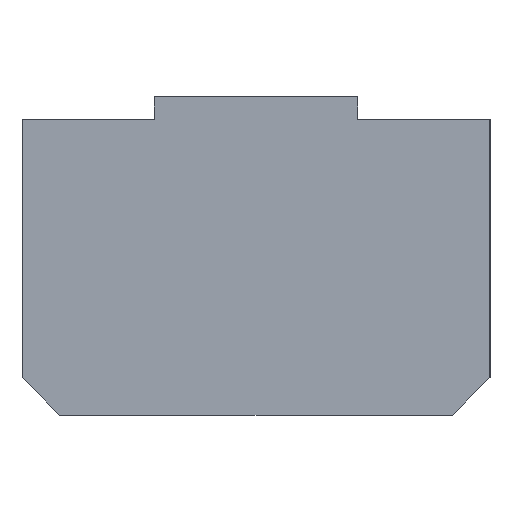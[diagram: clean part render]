
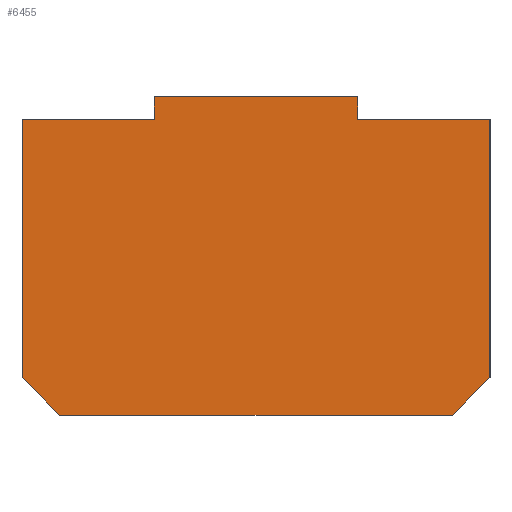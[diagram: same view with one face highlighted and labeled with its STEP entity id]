
A CAD part, left-side view. The second image highlights one B-rep face of the part: STEP entity #6455.
In plain terms, the highlighted planar face has unit normal (-1, 0, 0).
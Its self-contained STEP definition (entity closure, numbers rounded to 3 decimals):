
#2508=CARTESIAN_POINT('',(-22.5,20.75,-16.85));
#2509=VERTEX_POINT('',#2508);
#2516=CARTESIAN_POINT('',(-22.5,24.75,-12.85));
#2517=VERTEX_POINT('',#2516);
#2518=CARTESIAN_POINT('',(-22.5,20.75,-16.85));
#2519=DIRECTION('',(0.0,0.707,0.707));
#2520=VECTOR('',#2519,5.657);
#2521=LINE('',#2518,#2520);
#2522=EDGE_CURVE('',#2509,#2517,#2521,.T.);
#3152=CARTESIAN_POINT('',(-22.5,-20.75,-16.85));
#3153=VERTEX_POINT('',#3152);
#3160=CARTESIAN_POINT('',(-22.5,-20.75,-16.85));
#3161=DIRECTION('',(0.0,1.0,0.0));
#3162=VECTOR('',#3161,41.5);
#3163=LINE('',#3160,#3162);
#3164=EDGE_CURVE('',#3153,#2509,#3163,.T.);
#5314=CARTESIAN_POINT('',(-22.5,-24.75,-12.85));
#5315=VERTEX_POINT('',#5314);
#5322=CARTESIAN_POINT('',(-22.5,-24.75,-12.85));
#5323=DIRECTION('',(0.0,0.707,-0.707));
#5324=VECTOR('',#5323,5.657);
#5325=LINE('',#5322,#5324);
#5326=EDGE_CURVE('',#5315,#3153,#5325,.T.);
#6009=CARTESIAN_POINT('',(-22.5,-10.75,14.45));
#6010=VERTEX_POINT('',#6009);
#6017=CARTESIAN_POINT('',(-22.5,-24.75,14.45));
#6018=VERTEX_POINT('',#6017);
#6019=CARTESIAN_POINT('',(-22.5,-10.75,14.45));
#6020=DIRECTION('',(0.0,-1.0,0.0));
#6021=VECTOR('',#6020,14.0);
#6022=LINE('',#6019,#6021);
#6023=EDGE_CURVE('',#6010,#6018,#6022,.T.);
#6125=CARTESIAN_POINT('',(-22.5,24.75,14.45));
#6126=VERTEX_POINT('',#6125);
#6127=CARTESIAN_POINT('',(-22.5,24.75,-12.85));
#6128=DIRECTION('',(0.0,0.0,1.0));
#6129=VECTOR('',#6128,27.3);
#6130=LINE('',#6127,#6129);
#6131=EDGE_CURVE('',#2517,#6126,#6130,.T.);
#6291=CARTESIAN_POINT('',(-22.5,10.75,14.45));
#6292=VERTEX_POINT('',#6291);
#6293=CARTESIAN_POINT('',(-22.5,24.75,14.45));
#6294=DIRECTION('',(0.0,-1.0,0.0));
#6295=VECTOR('',#6294,14.);
#6296=LINE('',#6293,#6295);
#6297=EDGE_CURVE('',#6126,#6292,#6296,.T.);
#6344=CARTESIAN_POINT('',(-22.5,-24.75,14.45));
#6345=DIRECTION('',(0.0,0.0,-1.0));
#6346=VECTOR('',#6345,27.3);
#6347=LINE('',#6344,#6346);
#6348=EDGE_CURVE('',#6018,#5315,#6347,.T.);
#6367=CARTESIAN_POINT('',(-22.5,-10.75,16.85));
#6368=VERTEX_POINT('',#6367);
#6375=CARTESIAN_POINT('',(-22.5,-10.75,16.85));
#6376=DIRECTION('',(0.0,0.0,-1.0));
#6377=VECTOR('',#6376,2.4);
#6378=LINE('',#6375,#6377);
#6379=EDGE_CURVE('',#6368,#6010,#6378,.T.);
#6398=CARTESIAN_POINT('',(-22.5,10.75,16.85));
#6399=VERTEX_POINT('',#6398);
#6406=CARTESIAN_POINT('',(-22.5,10.75,16.85));
#6407=DIRECTION('',(0.0,-1.0,0.0));
#6408=VECTOR('',#6407,21.5);
#6409=LINE('',#6406,#6408);
#6410=EDGE_CURVE('',#6399,#6368,#6409,.T.);
#6428=CARTESIAN_POINT('',(-22.5,10.75,14.45));
#6429=DIRECTION('',(0.0,0.0,1.0));
#6430=VECTOR('',#6429,2.4);
#6431=LINE('',#6428,#6430);
#6432=EDGE_CURVE('',#6292,#6399,#6431,.T.);
#6438=CARTESIAN_POINT('',(-22.5,0.,0.114));
#6439=DIRECTION('',(1.0,0.0,0.0));
#6440=DIRECTION('',(0.0,0.0,-1.0));
#6441=AXIS2_PLACEMENT_3D('',#6438,#6439,#6440);
#6442=PLANE('',#6441);
#6443=ORIENTED_EDGE('',*,*,#6410,.F.);
#6444=ORIENTED_EDGE('',*,*,#6432,.F.);
#6445=ORIENTED_EDGE('',*,*,#6297,.F.);
#6446=ORIENTED_EDGE('',*,*,#6131,.F.);
#6447=ORIENTED_EDGE('',*,*,#2522,.F.);
#6448=ORIENTED_EDGE('',*,*,#3164,.F.);
#6449=ORIENTED_EDGE('',*,*,#5326,.F.);
#6450=ORIENTED_EDGE('',*,*,#6348,.F.);
#6451=ORIENTED_EDGE('',*,*,#6023,.F.);
#6452=ORIENTED_EDGE('',*,*,#6379,.F.);
#6453=EDGE_LOOP('',(#6443,#6444,#6445,#6446,#6447,#6448,#6449,#6450,#6451,#6452));
#6454=FACE_OUTER_BOUND('',#6453,.T.);
#6455=ADVANCED_FACE('',(#6454),#6442,.F.);
